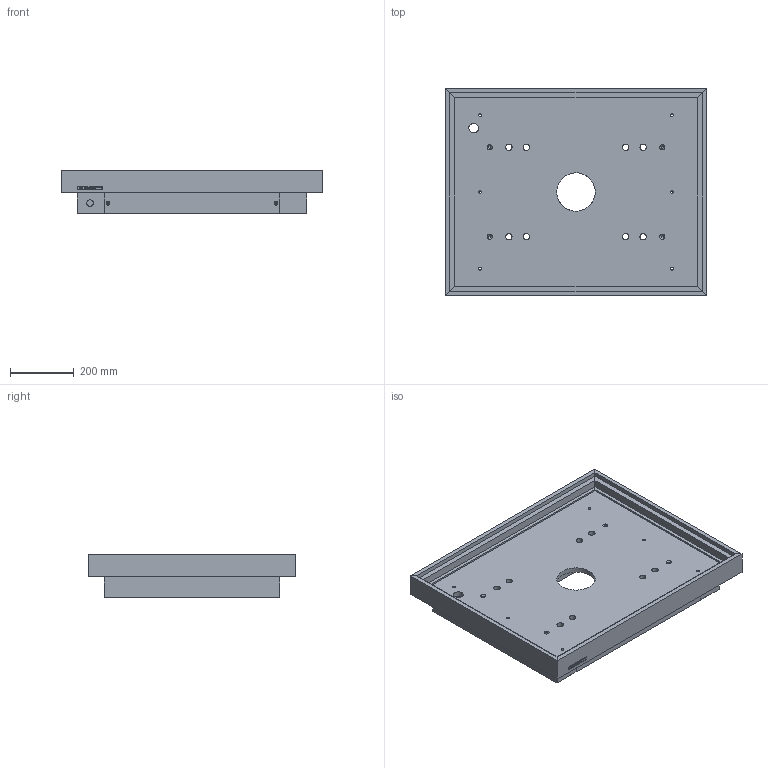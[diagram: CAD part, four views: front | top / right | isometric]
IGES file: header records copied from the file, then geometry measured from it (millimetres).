
Global section: file name: 80000; native system: Autodesk Inventor 2014; preprocessor: unknown; author: Robertom; date: 20140526.111151; units: millimetre
Bounding box: 818 x 650 x 135 mm (x, y, z)
Volume: 19722382 mm3; surface area: 2936001 mm2
Topology: 21 solids, 21 shells, 513 faces, 1383 edges, 941 vertices
Faces by surface type: bspline 513
